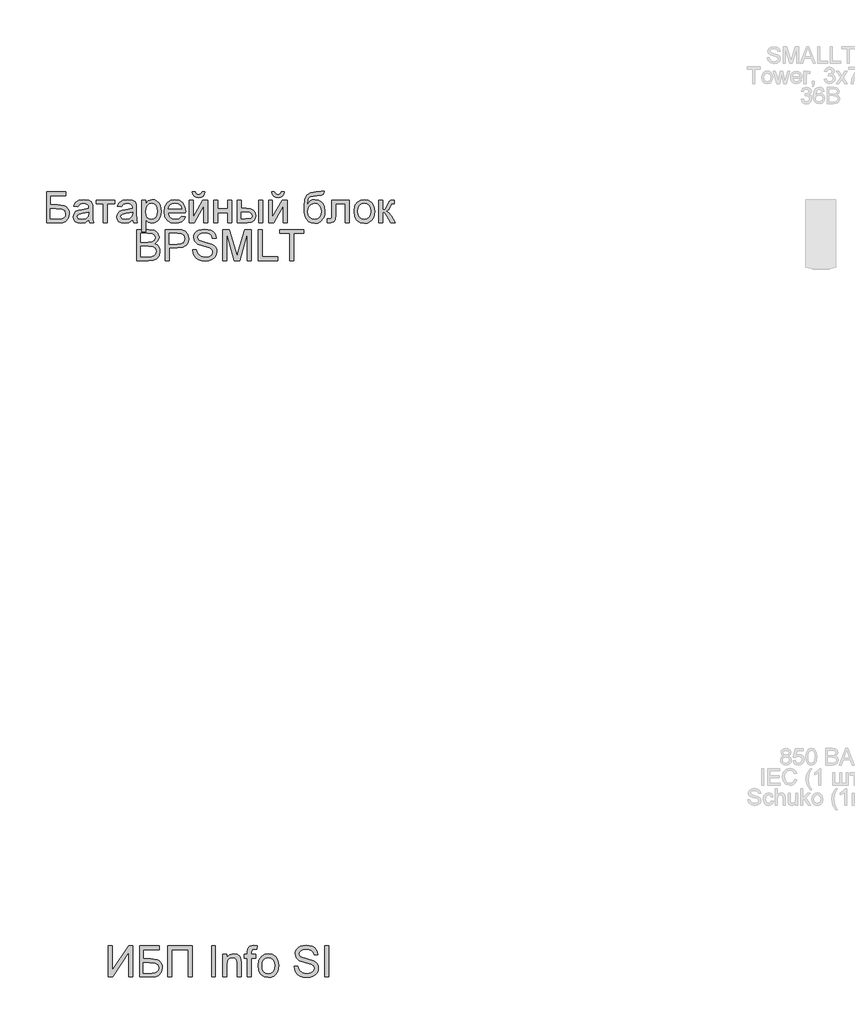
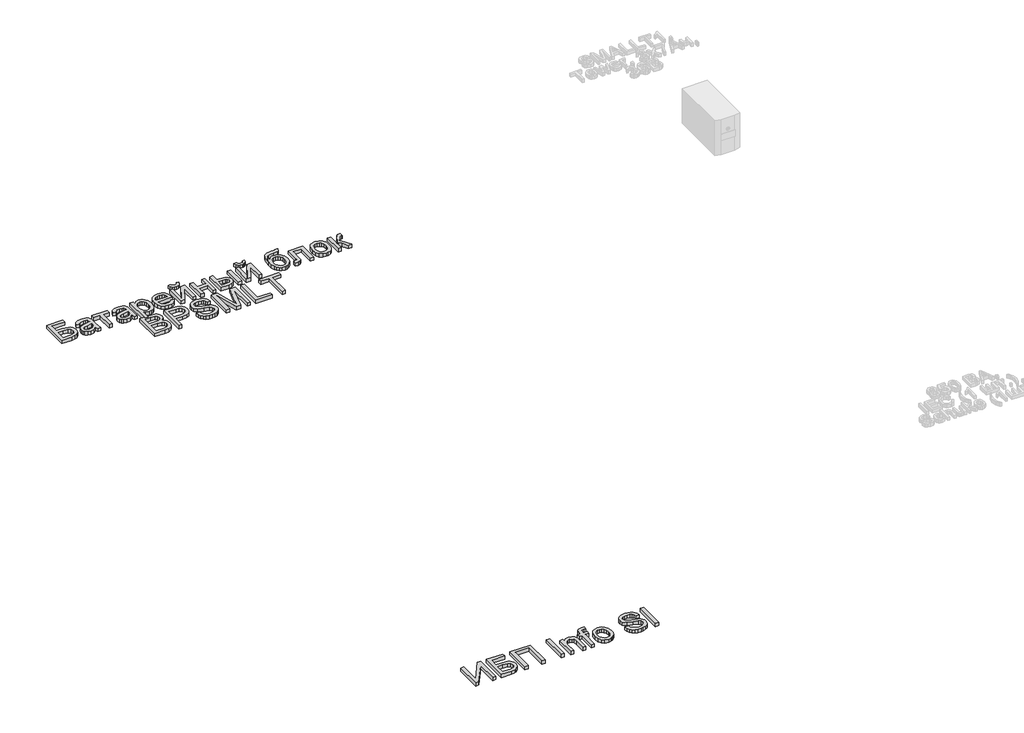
# One storey, part 6 of 74: 2 proxies.
"""IFC4 building model written with IfcOpenShell, lengths in millimetres."""

import ifcopenshell
import ifcopenshell.guid

model = None  # the IFC model being written
_history = None  # IfcOwnerHistory: only IFC2X3 demands one
_inside = {}  # id of a spatial element -> (the spatial element, [elements in it])
_under = {}  # id of a project, library or spatial element -> (it, [spatial elements below it])
_declared = {}  # id of a project -> (the project, [libraries it declares])
_typed = {}  # id of a type object -> (the type object, [elements of that type])
_made_of = {}  # id of a material, layer set ... -> (it, [elements and type objects made of it])


def new_model(schema):
    """Start an empty IFC model of exactly this schema.

    Asked for "IFC4X3", IfcOpenShell would pick the latest addendum, in which some entities
    have other attributes; the version numbers below select the first issue.
    IFC2X3 requires an IfcOwnerHistory on every rooted entity: one is made here for all.
    """
    global model, _history
    if schema == "IFC4X3":
        model = ifcopenshell.file(schema_version=(4, 3, 0, 0))
    else:
        model = ifcopenshell.file(schema=schema)
    _inside.clear()
    _under.clear()
    _declared.clear()
    _typed.clear()
    _made_of.clear()
    _history = None
    if model.schema == "IFC2X3":
        org = make("IfcOrganization", Name="unknown")
        user = make(
            "IfcPersonAndOrganization",
            ThePerson=make("IfcPerson", FamilyName="unknown"),
            TheOrganization=org,
        )
        app = make(
            "IfcApplication",
            ApplicationDeveloper=org,
            Version="unknown",
            ApplicationFullName="unknown",
            ApplicationIdentifier="unknown",
        )
        _history = make(
            "IfcOwnerHistory",
            OwningUser=user,
            OwningApplication=app,
            ChangeAction="ADDED",
            CreationDate=0,
        )
    return model


def make(cls, **values):
    """One entity of the class cls with the attributes given. An attribute that is None is left unset."""
    return model.create_entity(
        cls, **{name: value for name, value in values.items() if value is not None}
    )


def rooted(cls, **values):
    """An entity with a GlobalId (a new one), such as an element, a storey or a relation."""
    return make(cls, GlobalId=ifcopenshell.guid.new(), OwnerHistory=_history, **values)


def si_unit(unit_type, name, prefix=None):
    """IfcSIUnit, for example si_unit("LENGTHUNIT", "METRE", prefix="MILLI")."""
    return make("IfcSIUnit", UnitType=unit_type, Prefix=prefix, Name=name)


def assignment(units):
    """IfcUnitAssignment: the units of a project."""
    return None if units is None else make("IfcUnitAssignment", Units=units)


def point(xyz):
    """IfcCartesianPoint."""
    return None if xyz is None else make("IfcCartesianPoint", Coordinates=xyz)


def direction(xyz):
    """IfcDirection."""
    return None if xyz is None else make("IfcDirection", DirectionRatios=xyz)


def frame(location, z_axis=None, x_axis=None):
    """IfcAxis2Placement3D, a coordinate frame: its origin and axes. An axis left out is left unset."""
    return make(
        "IfcAxis2Placement3D",
        Location=point(location),
        Axis=direction(z_axis),
        RefDirection=direction(x_axis),
    )


def origin():
    """The frame at (0, 0, 0) with its axes left unset."""
    return frame((0.0, 0.0, 0.0))


def origin_with_axes():
    """The frame at (0, 0, 0) with the z axis (0, 0, 1) and the x axis (1, 0, 0) written out."""
    return frame((0.0, 0.0, 0.0), z_axis=(0.0, 0.0, 1.0), x_axis=(1.0, 0.0, 0.0))


def place(relative_to, where):
    """IfcLocalPlacement: puts the frame where relative to a parent placement (None: the world)."""
    return make(
        "IfcLocalPlacement", PlacementRelTo=relative_to, RelativePlacement=where
    )


def context(
    kind, dimensions, precision=None, world=None, true_north=None, identifier=None
):
    """IfcGeometricRepresentationContext, for example the 3D "Model" context."""
    return make(
        "IfcGeometricRepresentationContext",
        ContextIdentifier=identifier,
        ContextType=kind,
        CoordinateSpaceDimension=dimensions,
        Precision=precision,
        WorldCoordinateSystem=world,
        TrueNorth=true_north,
    )


def project(units=None, contexts=None):
    """IfcProject with its units and contexts."""
    return rooted(
        "IfcProject",
        Name="project",
        RepresentationContexts=contexts,
        UnitsInContext=assignment(units),
    )


def spatial(cls, under=None, at=None, **own):
    """A site, building, storey or space (cls), placed at a placement, below another one or the project."""
    s = rooted(cls, ObjectPlacement=at, **own)
    if under is not None:
        _under.setdefault(under.id(), (under, []))[1].append(s)
    return s


def polyline(points):
    """IfcPolyline through the points."""
    return make("IfcPolyline", Points=[point(p) for p in points])


def outline(outer, holes=None, kind="AREA"):
    """IfcArbitraryClosedProfileDef: a profile drawn as a closed curve; with holes, ...WithVoids."""
    if holes is None:
        return make("IfcArbitraryClosedProfileDef", ProfileType=kind, OuterCurve=outer)
    return make(
        "IfcArbitraryProfileDefWithVoids",
        ProfileType=kind,
        OuterCurve=outer,
        InnerCurves=holes,
    )


def extrude(swept, where, along, depth):
    """IfcExtrudedAreaSolid: the profile swept, set in the frame where, extruded along a direction by depth."""
    return make(
        "IfcExtrudedAreaSolid",
        SweptArea=swept,
        Position=where,
        ExtrudedDirection=direction(along),
        Depth=depth,
    )


def shape(context_of_items, identifier, shape_type, items):
    """IfcShapeRepresentation: the items that make up one representation, for example the "Body"."""
    return make(
        "IfcShapeRepresentation",
        ContextOfItems=context_of_items,
        RepresentationIdentifier=identifier,
        RepresentationType=shape_type,
        Items=items,
    )


def made_of(thing, what):
    """Note that an element or type object is made of a material, layer set ...; save() writes the relation."""
    if what is not None:
        _made_of.setdefault(what.id(), (what, []))[1].append(thing)
    return thing


def element(
    cls,
    number,
    at=None,
    inside=None,
    cuts=None,
    type_object=None,
    material=None,
    context=None,
    identifier="Body",
    shape_type=None,
    held_by="IfcProductDefinitionShape",
    body=None,
    shapes=None,
    **own,
):
    """One element of the class cls, such as IfcWall. Its Tag is "e" and its number.

    at: its placement. inside: the storey or other place that contains it. cuts: it is an
    opening in that element (IfcRelVoidsElement). A single representation is given by context,
    identifier, shape_type and body (its items); several are given by shapes. held_by: the class
    of the entity that holds the representations. save() writes the other relations.
    """
    e = rooted(cls, Tag="e%d" % number, ObjectPlacement=at, **own)
    if body is not None:
        shapes = [shape(context, identifier, shape_type, body)]
    if shapes is not None:
        e.Representation = make(held_by, Representations=shapes)
    if inside is not None:
        _inside.setdefault(inside.id(), (inside, []))[1].append(e)
    if cuts is not None:
        rooted(
            "IfcRelVoidsElement", RelatingBuildingElement=cuts, RelatedOpeningElement=e
        )
    if type_object is not None:
        _typed.setdefault(type_object.id(), (type_object, []))[1].append(e)
    return made_of(e, material)


def aggregate(whole, parts):
    """IfcRelAggregates: a whole, such as a stair, and the parts it consists of."""
    return rooted("IfcRelAggregates", RelatingObject=whole, RelatedObjects=parts)


def save(model, path):
    """Write the relations noted so far, then the file.

    IfcRelAggregates (storeys below a building ...), IfcRelContainedInSpatialStructure (elements
    in a storey), IfcRelDefinesByType, IfcRelAssociatesMaterial and IfcRelDeclares: one each for
    every whole, place, type object, material and project.
    """
    for whole, parts in _under.values():
        aggregate(whole, parts)
    for where, things in _inside.values():
        rooted(
            "IfcRelContainedInSpatialStructure",
            RelatedElements=things,
            RelatingStructure=where,
        )
    for kind, things in _typed.values():
        rooted("IfcRelDefinesByType", RelatedObjects=things, RelatingType=kind)
    for what, things in _made_of.values():
        rooted("IfcRelAssociatesMaterial", RelatedObjects=things, RelatingMaterial=what)
    for by, libraries in _declared.values():
        rooted("IfcRelDeclares", RelatingContext=by, RelatedDefinitions=libraries)
    model.write(path)


model = new_model("IFC4")

# Units and contexts
model_context = context("Model", 3, world=origin())
ifc_project = project(units=[si_unit("LENGTHUNIT", "METRE", prefix="MILLI")], contexts=[model_context])

# Site, building, storey
site = spatial("IfcSite", under=ifc_project)
building = spatial("IfcBuilding", under=site)
storey = spatial("IfcBuildingStorey", under=building, Name="Этаж 01", Elevation=0.0)

# Proxies
placement = place(None, origin())
element("IfcBuildingElementProxy", 1, Name="150 мм Arial", ObjectType="150 мм Arial", at=placement, inside=storey, context=model_context, shape_type="SweptSolid", body=[
    extrude(outline(polyline([(-2399.3960544, -28290.385521), (-2305.2182636, -28290.385521), (-2305.2182636, -28309.2210791), (-2380.5604963, -28309.2210791), (-2380.5604963, -28353.9555297), (-2345.2806129, -28353.9555297), (-2314.1945843, -28357.7815025), (-2303.7927209, -28363.3089295), (-2295.69012, -28372.2392649), (-2290.4753927, -28383.7355772), (-2288.7371503, -28396.960935), (-2293.6851631, -28418.4268494), (-2308.4556252, -28434.7424159), (-2321.7269682, -28439.4880936), (-2341.8960986, -28441.0699862), (-2399.3960544, -28441.0699862), (-2399.3960544, -28290.385521)]), holes=[polyline([(-2380.5604963, -28422.234428), (-2340.2038414, -28422.234428), (-2325.939217, -28420.6801266), (-2315.7396887, -28416.0172223), (-2309.6144535, -28408.2457152), (-2307.5727084, -28397.3656052), (-2312.2448098, -28382.6135372), (-2325.2494383, -28374.7408625), (-2353.6315342, -28372.7910879), (-2380.5604963, -28372.7910879), (-2380.5604963, -28422.234428)])]), origin_with_axes(), (0.0, 0.0, 1.0), 20.0),
    extrude(outline(polyline([(-2194.5593595, -28426.9433176), (-2212.8247006, -28439.7088228), (-2233.003028, -28443.424431), (-2248.7437789, -28441.1895478), (-2260.3550543, -28434.4848985), (-2267.5149577, -28424.3037643), (-2269.9015921, -28411.6394266), (-2266.2963486, -28396.7402058), (-2256.8233872, -28385.9244751), (-2243.6348176, -28379.7440576), (-2227.3376453, -28376.9113662), (-2194.6697241, -28370.4366431), (-2194.5593595, -28366.2427884), (-2195.8561435, -28357.8366848), (-2199.7464956, -28352.336849), (-2208.4469048, -28348.2533588), (-2220.5686166, -28346.8921954), (-2239.6249039, -28350.5158331), (-2248.7115892, -28363.3733088), (-2267.5471473, -28361.018864), (-2259.3985611, -28342.6247643), (-2242.9910242, -28331.8458218), (-2218.1405954, -28328.0566373), (-2195.3135176, -28331.4043634), (-2182.4192537, -28339.810467), (-2176.6435063, -28352.5943664), (-2175.7238013, -28369.0754797), (-2175.7238013, -28392.5095628), (-2174.7673082, -28425.2326663), (-2171.0149118, -28441.0699862), (-2189.85047, -28441.0699862), (-2194.5593595, -28426.9433176)]), holes=[polyline([(-2194.5593595, -28389.2722013), (-2224.9464123, -28395.0479486), (-2241.1516142, -28398.1013692), (-2248.49086, -28403.0677761), (-2251.066034, -28410.3150514), (-2245.4558335, -28420.5053827), (-2228.9931142, -28424.5888728), (-2209.9368269, -28420.0823184), (-2197.6495683, -28409.1746172), (-2194.6697241, -28394.6064902), (-2194.5593595, -28389.2722013)])]), origin_with_axes(), (0.0, 0.0, 1.0), 20.0),
    extrude(outline(polyline([(-2159.242688, -28330.411082), (-2069.7737867, -28330.411082), (-2069.7737867, -28349.2466402), (-2105.0904583, -28349.2466402), (-2105.0904583, -28441.0699862), (-2123.9260164, -28441.0699862), (-2123.9260164, -28349.2466402), (-2159.242688, -28349.2466402), (-2159.242688, -28330.411082)])), origin_with_axes(), (0.0, 0.0, 1.0), 20.0),
    extrude(outline(polyline([(-1982.6593303, -28426.9433176), (-2000.9246713, -28439.7088228), (-2021.1029988, -28443.424431), (-2036.8437496, -28441.1895478), (-2048.4550251, -28434.4848985), (-2055.6149284, -28424.3037643), (-2058.0015629, -28411.6394266), (-2054.3963193, -28396.7402058), (-2044.923358, -28385.9244751), (-2031.7347884, -28379.7440576), (-2015.437616, -28376.9113662), (-1982.7696949, -28370.4366431), (-1982.6593303, -28366.2427884), (-1983.9561143, -28357.8366848), (-1987.8464664, -28352.336849), (-1996.5468756, -28348.2533588), (-2008.6685873, -28346.8921954), (-2027.7248747, -28350.5158331), (-2036.81156, -28363.3733088), (-2055.6471181, -28361.018864), (-2047.4985319, -28342.6247643), (-2031.0909949, -28331.8458218), (-2006.2405662, -28328.0566373), (-1983.4134884, -28331.4043634), (-1970.5192244, -28339.810467), (-1964.7434771, -28352.5943664), (-1963.8237721, -28369.0754797), (-1963.8237721, -28392.5095628), (-1962.8672789, -28425.2326663), (-1959.1148826, -28441.0699862), (-1977.9504407, -28441.0699862), (-1982.6593303, -28426.9433176)]), holes=[polyline([(-1982.6593303, -28389.2722013), (-2013.0463831, -28395.0479486), (-2029.251585, -28398.1013692), (-2036.5908308, -28403.0677761), (-2039.1660047, -28410.3150514), (-2033.5558043, -28420.5053827), (-2017.093085, -28424.5888728), (-1998.0367977, -28420.0823184), (-1985.749539, -28409.1746172), (-1982.7696949, -28394.6064902), (-1982.6593303, -28389.2722013)])]), origin_with_axes(), (0.0, 0.0, 1.0), 20.0),
    extrude(outline(polyline([(-1937.9248797, -28483.449992), (-1937.9248797, -28330.411082), (-1919.0893215, -28330.411082), (-1919.0893215, -28348.8787582), (-1906.0662989, -28333.2621675), (-1888.4815395, -28328.0566373), (-1875.7436254, -28329.8776532), (-1864.605998, -28335.3407008), (-1855.5377068, -28344.1146864), (-1849.0078014, -28355.8685161), (-1843.7470889, -28384.8944055), (-1845.2324124, -28401.0030384), (-1849.6883831, -28415.410217), (-1856.9724466, -28427.384776), (-1866.9420487, -28436.1955498), (-1878.5533242, -28441.6172107), (-1890.7624079, -28443.424431), (-1907.1515508, -28438.5867827), (-1919.0893215, -28426.3547064), (-1919.0893215, -28483.449992), (-1937.9248797, -28483.449992)]), holes=[polyline([(-1919.0893215, -28386.6234509), (-1917.052175, -28403.5092345), (-1910.9407353, -28415.3182465), (-1901.9230279, -28422.2712162), (-1891.1670781, -28424.5888728), (-1880.2363843, -28422.1884428), (-1870.9887506, -28414.9871527), (-1864.6841729, -28402.7458793), (-1862.582647, -28385.2254993), (-1864.6335892, -28368.4316862), (-1870.7864155, -28356.4571273), (-1879.7903274, -28349.2834284), (-1890.3945259, -28346.8921954), (-1901.0401111, -28349.4351797), (-1910.3889123, -28357.0641326), (-1916.9142192, -28369.5399308), (-1919.0893215, -28386.6234509)])]), origin_with_axes(), (0.0, 0.0, 1.0), 20.0),
    extrude(outline(polyline([(-1745.0811378, -28408.1077594), (-1726.6134616, -28410.4622042), (-1733.2675272, -28424.3773407), (-1743.8855213, -28434.7792041), (-1758.2283206, -28441.2631242), (-1776.0568018, -28443.424431), (-1798.1573126, -28439.6950272), (-1815.1626579, -28428.5068161), (-1826.0059797, -28410.5863644), (-1829.6204203, -28386.6602391), (-1825.9691915, -28361.929372), (-1815.0155051, -28343.4341047), (-1798.2400861, -28331.9010041), (-1777.1236596, -28328.0566373), (-1756.6648221, -28331.8918071), (-1740.3170659, -28343.3973165), (-1729.5979043, -28361.8557956), (-1726.0248504, -28386.5498745), (-1726.135215, -28391.626646), (-1810.7848621, -28391.626646), (-1807.5245079, -28405.7257235), (-1799.9507374, -28416.0907987), (-1789.0200436, -28422.4643543), (-1775.6889198, -28424.5888728), (-1757.2212436, -28420.6525355), (-1745.0811378, -28408.1077594)]), holes=[polyline([(-1810.7848621, -28372.7910879), (-1744.8604086, -28372.7910879), (-1747.4079914, -28362.8398799), (-1752.4019895, -28355.7213633), (-1763.383267, -28349.0994874), (-1777.197236, -28346.8921954), (-1789.8937633, -28348.6534305), (-1800.3921958, -28353.9371356), (-1807.6900548, -28362.1730938), (-1810.7848621, -28372.7910879)])]), origin_with_axes(), (0.0, 0.0, 1.0), 20.0),
    extrude(outline(polyline([(-1645.9737283, -28290.385521), (-1631.8470597, -28290.385521), (-1634.8866847, -28302.4474519), (-1640.9889273, -28311.3364006), (-1649.877876, -28316.8132438), (-1661.2776193, -28318.6388582), (-1673.6476514, -28316.8270394), (-1683.2401744, -28311.3915829), (-1689.797671, -28302.5164298), (-1693.0626237, -28290.385521), (-1678.9359551, -28290.385521), (-1673.6384543, -28300.9989165), (-1662.9698765, -28304.5121896), (-1651.271229, -28301.1092811), (-1645.9737283, -28290.385521)])), origin_with_axes(), (0.0, 0.0, 1.0), 20.0),
    extrude(outline(polyline([(-1707.1892923, -28330.411082), (-1688.3537341, -28330.411082), (-1688.3537341, -28414.8032117), (-1642.0741791, -28330.411082), (-1617.7203911, -28330.411082), (-1617.7203911, -28441.0699862), (-1636.5559492, -28441.0699862), (-1636.5559492, -28357.1928913), (-1682.5411986, -28441.0699862), (-1707.1892923, -28441.0699862), (-1707.1892923, -28330.411082)])), origin_with_axes(), (0.0, 0.0, 1.0), 20.0),
    extrude(outline(polyline([(-1589.4670538, -28330.411082), (-1570.6314957, -28330.411082), (-1570.6314957, -28372.7910879), (-1521.1881555, -28372.7910879), (-1521.1881555, -28330.411082), (-1502.3525974, -28330.411082), (-1502.3525974, -28441.0699862), (-1521.1881555, -28441.0699862), (-1521.1881555, -28391.626646), (-1570.6314957, -28391.626646), (-1570.6314957, -28441.0699862), (-1589.4670538, -28441.0699862), (-1589.4670538, -28330.411082)])), origin_with_axes(), (0.0, 0.0, 1.0), 20.0),
    extrude(outline(polyline([(-1474.0992601, -28330.411082), (-1455.263702, -28330.411082), (-1455.263702, -28370.4366431), (-1431.9767717, -28370.4366431), (-1411.849028, -28372.7956864), (-1396.9360117, -28379.8728163), (-1387.7067721, -28391.0978157), (-1384.6303589, -28405.9004675), (-1387.2101314, -28419.3787441), (-1394.9494489, -28430.7508962), (-1408.3541491, -28438.4902137), (-1427.9300697, -28441.0699862), (-1474.0992601, -28441.0699862), (-1474.0992601, -28330.411082)]), holes=[polyline([(-1455.263702, -28422.234428), (-1435.913109, -28422.234428), (-1410.9339216, -28418.2796966), (-1405.3329182, -28413.2167206), (-1403.4659171, -28405.9372557), (-1409.0025411, -28394.3489728), (-1417.8822928, -28390.5413942), (-1433.4482997, -28389.2722013), (-1455.263702, -28389.2722013), (-1455.263702, -28422.234428)])]), origin_with_axes(), (0.0, 0.0, 1.0), 20.0),
    extrude(outline(polyline([(-1370.5036903, -28330.411082), (-1351.6681321, -28330.411082), (-1351.6681321, -28441.0699862), (-1370.5036903, -28441.0699862), (-1370.5036903, -28330.411082)])), origin_with_axes(), (0.0, 0.0, 1.0), 20.0),
    extrude(outline(polyline([(-1262.1992309, -28290.385521), (-1248.0725623, -28290.385521), (-1251.1121873, -28302.4474519), (-1257.2144299, -28311.3364006), (-1266.1033786, -28316.8132438), (-1277.5031219, -28318.6388582), (-1289.873154, -28316.8270394), (-1299.465677, -28311.3915829), (-1306.0231736, -28302.5164298), (-1309.2881263, -28290.385521), (-1295.1614577, -28290.385521), (-1289.863957, -28300.9989165), (-1279.1953791, -28304.5121896), (-1267.4967316, -28301.1092811), (-1262.1992309, -28290.385521)])), origin_with_axes(), (0.0, 0.0, 1.0), 20.0),
    extrude(outline(polyline([(-1323.4147949, -28330.411082), (-1304.5792368, -28330.411082), (-1304.5792368, -28414.8032117), (-1258.2996818, -28330.411082), (-1233.9458937, -28330.411082), (-1233.9458937, -28441.0699862), (-1252.7814518, -28441.0699862), (-1252.7814518, -28357.1928913), (-1298.7667012, -28441.0699862), (-1323.4147949, -28441.0699862), (-1323.4147949, -28330.411082)])), origin_with_axes(), (0.0, 0.0, 1.0), 20.0),
    extrude(outline(polyline([(-1069.1347598, -28288.0310762), (-1052.6536465, -28288.0310762), (-1057.5096888, -28302.7279619), (-1067.1114089, -28308.0438567), (-1090.17761, -28309.2210791), (-1121.2452445, -28313.5620867), (-1128.3729581, -28319.2090753), (-1133.1646211, -28327.4680261), (-1137.192929, -28352.0793316), (-1120.8773625, -28334.0531138), (-1110.9583442, -28329.5557564), (-1099.8529064, -28328.0566373), (-1080.2539932, -28331.8688145), (-1064.3522939, -28343.305346), (-1053.8124747, -28361.2441918), (-1050.2992017, -28384.5633117), (-1052.0420426, -28402.5435443), (-1057.2705655, -28416.9737155), (-1073.8068612, -28436.5266436), (-1085.1008384, -28441.6999841), (-1099.8529064, -28443.424431), (-1116.8536531, -28441.2033434), (-1129.5961658, -28434.5400808), (-1138.9725581, -28424.4141289), (-1145.874944, -28411.8049735), (-1150.1239811, -28392.817664), (-1151.5403268, -28363.5572498), (-1147.9672729, -28327.4174423), (-1137.2481113, -28305.3767123), (-1119.1161274, -28294.1333188), (-1093.3046069, -28290.385521), (-1072.3353332, -28289.9624567), (-1069.1347598, -28288.0310762)]), holes=[polyline([(-1069.1347598, -28383.9747005), (-1071.1765049, -28369.1536547), (-1077.3017401, -28357.2848618), (-1087.1425835, -28349.490362), (-1100.331153, -28346.8921954), (-1114.0807426, -28349.6375148), (-1124.2802709, -28357.873473), (-1130.5986442, -28370.698759), (-1132.7047686, -28387.2120621), (-1130.377915, -28403.2195274), (-1123.3973541, -28414.9687586), (-1113.0046878, -28422.1838443), (-1100.4415176, -28424.5888728), (-1087.8139682, -28421.8067652), (-1077.8167749, -28413.4604425), (-1071.3052636, -28400.5247918), (-1069.1347598, -28383.9747005)])]), origin_with_axes(), (0.0, 0.0, 1.0), 20.0),
    extrude(outline(polyline([(-1017.3369749, -28330.411082), (-932.5769632, -28330.411082), (-932.5769632, -28440.9596216), (-951.4125214, -28440.9596216), (-951.4125214, -28349.2466402), (-998.5014168, -28349.2466402), (-998.5014168, -28402.0377065), (-999.7706097, -28426.3914946), (-1006.7419735, -28436.6737964), (-1023.2230869, -28441.0699862), (-1038.5269778, -28440.113493), (-1038.5269778, -28422.234428), (-1030.1024802, -28422.234428), (-1021.586012, -28421.0755998), (-1018.1831035, -28417.3967798), (-1017.3369749, -28400.9708487), (-1017.3369749, -28330.411082)])), origin_with_axes(), (0.0, 0.0, 1.0), 20.0),
    extrude(outline(polyline([(-909.0325155, -28385.7405341), (-904.9582225, -28359.0598924), (-892.7353432, -28340.3071077), (-877.6337873, -28331.1192549), (-859.5523872, -28328.0566373), (-839.7649344, -28331.786041), (-823.9598042, -28342.9742522), (-813.5993275, -28360.738354), (-810.1458352, -28384.1954297), (-811.6725455, -28403.2241259), (-816.2526764, -28417.7094795), (-823.7528705, -28428.5573998), (-834.0397708, -28436.6737964), (-846.2580516, -28441.7367723), (-859.5523872, -28443.424431), (-879.5789633, -28439.7088228), (-895.3656994, -28428.5619984), (-905.6158115, -28410.425416), (-909.0325155, -28385.7405341)]), holes=[polyline([(-890.1969574, -28385.7037459), (-888.0172566, -28402.7504779), (-881.4781541, -28414.8951822), (-871.6373107, -28422.1654502), (-859.5523872, -28424.5888728), (-847.522646, -28422.1516546), (-837.7001967, -28414.8399999), (-831.1610942, -28402.5343472), (-828.9813934, -28385.1151347), (-831.1748898, -28368.5650435), (-837.755379, -28356.585886), (-847.5916238, -28349.3156181), (-859.5523872, -28346.8921954), (-871.6373107, -28349.306421), (-881.4781541, -28356.5490978), (-888.0172566, -28368.666211), (-890.1969574, -28385.7037459)])]), origin_with_axes(), (0.0, 0.0, 1.0), 20.0),
    extrude(outline(polyline([(-788.9558323, -28330.411082), (-770.1202742, -28330.411082), (-770.1202742, -28377.4999774), (-757.5019217, -28374.1154631), (-747.1644377, -28354.3969881), (-738.5743931, -28337.3824459), (-730.996024, -28331.8458218), (-717.2188433, -28330.411082), (-713.6135997, -28330.411082), (-713.6135997, -28349.3570048), (-718.6903712, -28349.2466402), (-727.8874211, -28351.233203), (-734.3621442, -28363.6308262), (-741.9589074, -28377.0401249), (-752.6090912, -28383.6068185), (-740.7265028, -28390.9368673), (-729.0646435, -28406.3787141), (-708.9047102, -28441.0699862), (-730.3154423, -28441.0699862), (-750.0707054, -28407.114478), (-760.0035193, -28392.7486861), (-770.1202742, -28389.2722013), (-770.1202742, -28441.0699862), (-788.9558323, -28441.0699862), (-788.9558323, -28330.411082)])), origin_with_axes(), (0.0, 0.0, 1.0), 20.0),
    extrude(outline(polyline([(-1962.6465497, -28624.032213), (-1962.6465497, -28473.3477477), (-1905.1465939, -28473.3477477), (-1876.9852272, -28477.7807258), (-1867.5214628, -28483.4047218), (-1860.356961, -28491.4107537), (-1854.3420904, -28510.6877703), (-1859.4004678, -28528.2909237), (-1874.6859647, -28541.626646), (-1864.0127883, -28547.2000583), (-1856.126318, -28555.6797383), (-1851.2564801, -28566.504666), (-1849.6332008, -28579.1138214), (-1854.0661789, -28599.3657252), (-1865.0474564, -28613.7866994), (-1881.4365993, -28621.4386449), (-1905.5880523, -28624.032213), (-1962.6465497, -28624.032213)]), holes=[polyline([(-1943.8109916, -28534.5633117), (-1909.414025, -28534.5633117), (-1889.3276681, -28532.944631), (-1877.2427446, -28525.9732671), (-1873.1776485, -28513.7044026), (-1876.9668331, -28501.417144), (-1887.8193519, -28494.1514746), (-1912.0259872, -28492.1833059), (-1943.8109916, -28492.1833059), (-1943.8109916, -28534.5633117)]), polyline([(-1943.8109916, -28605.1966548), (-1905.1833821, -28605.1966548), (-1891.2038663, -28604.4608908), (-1879.3764601, -28600.3590066), (-1871.5405736, -28591.9896912), (-1868.468759, -28579.2977624), (-1872.0740025, -28564.6560589), (-1883.7542559, -28555.9188616), (-1907.0227921, -28553.3988699), (-1943.8109916, -28553.3988699), (-1943.8109916, -28605.1966548)])]), origin_with_axes(), (0.0, 0.0, 1.0), 20.0),
    extrude(outline(polyline([(-1823.7343084, -28624.032213), (-1823.7343084, -28473.3477477), (-1767.8898215, -28473.3477477), (-1745.3754434, -28474.7824875), (-1727.0733141, -28481.8274277), (-1715.2091198, -28496.3955547), (-1710.7209594, -28516.9417642), (-1713.7513874, -28534.7012675), (-1722.8426712, -28549.4993207), (-1739.8434179, -28559.4873169), (-1766.6022345, -28562.816649), (-1804.8987502, -28562.816649), (-1804.8987502, -28624.032213), (-1823.7343084, -28624.032213)]), holes=[polyline([(-1804.8987502, -28543.9810908), (-1765.4985885, -28543.9810908), (-1748.7967459, -28542.2520454), (-1737.7602861, -28537.0649093), (-1731.6074597, -28528.7415792), (-1729.5565176, -28517.6039518), (-1734.3941658, -28502.0057552), (-1747.1044888, -28493.4708929), (-1765.9400469, -28492.1833059), (-1804.8987502, -28492.1833059), (-1804.8987502, -28543.9810908)])]), origin_with_axes(), (0.0, 0.0, 1.0), 20.0),
    extrude(outline(polyline([(-1691.8854013, -28572.234428), (-1673.0498431, -28572.234428), (-1666.9797902, -28591.0883803), (-1652.1541458, -28603.0077569), (-1629.5661913, -28607.5510996), (-1609.8845046, -28604.1114029), (-1597.1741816, -28594.6568356), (-1592.998721, -28582.0200891), (-1596.1257179, -28570.2662594), (-1608.9280114, -28561.713003), (-1636.3536141, -28554.52091), (-1665.8761442, -28545.2318896), (-1681.8974051, -28531.2155856), (-1687.1765117, -28512.490392), (-1685.5440354, -28501.4585307), (-1680.6466063, -28491.1716304), (-1672.6129833, -28482.4528271), (-1661.5719249, -28476.1252568), (-1633.6496814, -28470.993303), (-1603.8512398, -28476.3643801), (-1592.4285039, -28482.9954531), (-1583.9856121, -28492.1465177), (-1578.6421261, -28503.2473569), (-1576.5176076, -28515.7277536), (-1595.3531657, -28515.7277536), (-1598.8112565, -28504.4889586), (-1606.0217436, -28496.3771606), (-1617.2881297, -28491.465936), (-1632.9139175, -28489.8288611), (-1648.9075872, -28491.4475419), (-1659.8796677, -28496.3035842), (-1666.2256321, -28503.449692), (-1668.3409536, -28511.938569), (-1666.8418345, -28519.1766473), (-1662.3444771, -28524.9983799), (-1631.5895423, -28535.5198049), (-1598.2594335, -28544.9743722), (-1587.5218778, -28551.8077803), (-1580.0308806, -28560.241475), (-1575.6300923, -28570.1834859), (-1574.1631628, -28581.5418425), (-1575.8508215, -28593.153118), (-1580.9137974, -28604.0746147), (-1589.1451571, -28613.4739997), (-1600.3379668, -28620.5189399), (-1613.7978493, -28624.9197283), (-1628.8304273, -28626.3866577), (-1647.2843079, -28624.8047652), (-1662.4732358, -28620.0590874), (-1674.5719549, -28612.1312304), (-1683.7552092, -28601.0028001), (-1689.6505182, -28587.4463485), (-1691.8854013, -28572.234428)])), origin_with_axes(), (0.0, 0.0, 1.0), 20.0),
    extrude(outline(polyline([(-1545.9098256, -28624.032213), (-1545.9098256, -28473.3477477), (-1513.4994218, -28473.3477477), (-1482.6709106, -28579.5552797), (-1476.4537049, -28601.7385641), (-1469.7214644, -28577.7158698), (-1439.407988, -28473.3477477), (-1406.9975842, -28473.3477477), (-1406.9975842, -28624.032213), (-1425.8331424, -28624.032213), (-1425.8331424, -28492.1833059), (-1463.6881997, -28624.032213), (-1489.2192101, -28624.032213), (-1527.0742674, -28492.1833059), (-1527.0742674, -28624.032213), (-1545.9098256, -28624.032213)])), origin_with_axes(), (0.0, 0.0, 1.0), 20.0),
    extrude(outline(polyline([(-1374.0353575, -28624.032213), (-1374.0353575, -28473.3477477), (-1355.1997993, -28473.3477477), (-1355.1997993, -28605.1966548), (-1279.8575667, -28605.1966548), (-1279.8575667, -28624.032213), (-1374.0353575, -28624.032213)])), origin_with_axes(), (0.0, 0.0, 1.0), 20.0),
    extrude(outline(polyline([(-1220.9964475, -28624.032213), (-1220.9964475, -28492.1833059), (-1270.4397876, -28492.1833059), (-1270.4397876, -28473.3477477), (-1152.7175492, -28473.3477477), (-1152.7175492, -28492.1833059), (-1202.1608893, -28492.1833059), (-1202.1608893, -28624.032213), (-1220.9964475, -28624.032213)])), origin_with_axes(), (0.0, 0.0, 1.0), 20.0),
])
element("IfcBuildingElementProxy", 2, Name="150 мм Arial", ObjectType="150 мм Arial", at=placement, inside=storey, context=model_context, shape_type="SweptSolid", body=[
    extrude(outline(polyline([(-2099.2043463, -31944.5427726), (-2080.3687882, -31944.5427726), (-2080.3687882, -32063.8836919), (-2001.4948884, -31944.5427726), (-1981.4821079, -31944.5427726), (-1981.4821079, -32095.2272379), (-2000.317666, -32095.2272379), (-2000.317666, -31976.2174124), (-2079.0076248, -32095.2272379), (-2099.2043463, -32095.2272379), (-2099.2043463, -31944.5427726)])), origin_with_axes(), (0.0, 0.0, 1.0), 20.0),
    extrude(outline(polyline([(-1948.5198811, -31944.5427726), (-1854.3420904, -31944.5427726), (-1854.3420904, -31963.3783308), (-1929.684323, -31963.3783308), (-1929.684323, -32008.1127814), (-1894.4044396, -32008.1127814), (-1863.318411, -32011.9387542), (-1852.9165476, -32017.4661811), (-1844.8139467, -32026.3965166), (-1839.5992194, -32037.8928289), (-1837.860977, -32051.1181867), (-1842.8089898, -32072.5841011), (-1857.5794519, -32088.8996676), (-1870.8507949, -32093.6453453), (-1891.0199253, -32095.2272379), (-1948.5198811, -32095.2272379), (-1948.5198811, -31944.5427726)]), holes=[polyline([(-1929.684323, -32076.3916797), (-1889.3276681, -32076.3916797), (-1875.0630437, -32074.8373783), (-1864.8635154, -32070.174474), (-1858.7382802, -32062.4029669), (-1856.6965351, -32051.5228568), (-1861.3686365, -32036.7707888), (-1874.373265, -32028.8981141), (-1902.7553609, -32026.9483396), (-1929.684323, -32026.9483396), (-1929.684323, -32076.3916797)])]), origin_with_axes(), (0.0, 0.0, 1.0), 20.0),
    extrude(outline(polyline([(-1811.9620845, -31944.5427726), (-1694.2398461, -31944.5427726), (-1694.2398461, -32095.2272379), (-1713.0754042, -32095.2272379), (-1713.0754042, -31963.3783308), (-1793.1265264, -31963.3783308), (-1793.1265264, -32095.2272379), (-1811.9620845, -32095.2272379), (-1811.9620845, -31944.5427726)])), origin_with_axes(), (0.0, 0.0, 1.0), 20.0),
    extrude(outline(polyline([(-1600.0620553, -32095.2272379), (-1600.0620553, -31944.5427726), (-1581.2264971, -31944.5427726), (-1581.2264971, -32095.2272379), (-1600.0620553, -32095.2272379)])), origin_with_axes(), (0.0, 0.0, 1.0), 20.0),
    extrude(outline(polyline([(-1545.9098256, -32095.2272379), (-1545.9098256, -31984.5683337), (-1527.0742674, -31984.5683337), (-1527.0742674, -32000.0193775), (-1512.6716873, -31986.6652611), (-1493.0083947, -31982.213889), (-1475.2213002, -31985.8007384), (-1463.0811944, -31995.2185175), (-1457.4342058, -32009.0692746), (-1456.4409244, -32027.2794334), (-1456.4409244, -32095.2272379), (-1475.2764825, -32095.2272379), (-1475.2764825, -32029.8178191), (-1477.4469863, -32013.1527647), (-1485.1173259, -32004.341991), (-1498.048378, -32001.0494471), (-1509.0802394, -32002.8980541), (-1518.4842229, -32008.4438752), (-1524.9267563, -32019.1584383), (-1527.0742674, -32036.5132714), (-1527.0742674, -32095.2272379), (-1545.9098256, -32095.2272379)])), origin_with_axes(), (0.0, 0.0, 1.0), 20.0),
    extrude(outline(polyline([(-1425.8331424, -32095.2272379), (-1425.8331424, -32003.4038919), (-1442.3142558, -32003.4038919), (-1442.3142558, -31984.5683337), (-1425.8331424, -31984.5683337), (-1425.8331424, -31973.4215093), (-1423.8465796, -31957.7129481), (-1414.2080713, -31946.4925472), (-1395.2253604, -31942.1883279), (-1378.0452712, -31944.2484671), (-1380.8043862, -31961.9068028), (-1391.656905, -31961.023886), (-1403.5210994, -31964.150883), (-1406.9975842, -31975.8127422), (-1406.9975842, -31984.5683337), (-1385.8075813, -31984.5683337), (-1385.8075813, -32003.4038919), (-1406.9975842, -32003.4038919), (-1406.9975842, -32095.2272379), (-1425.8331424, -32095.2272379)])), origin_with_axes(), (0.0, 0.0, 1.0), 20.0),
    extrude(outline(polyline([(-1374.0353575, -32039.8977858), (-1369.9610644, -32013.2171441), (-1357.7381851, -31994.4643594), (-1342.6366292, -31985.2765066), (-1324.5552291, -31982.213889), (-1304.7677763, -31985.9432927), (-1288.9626461, -31997.1315039), (-1278.6021694, -32014.8956057), (-1275.1486771, -32038.3526814), (-1276.6753874, -32057.3813776), (-1281.2555183, -32071.8667312), (-1288.7557124, -32082.7146515), (-1299.0426127, -32090.831048), (-1311.2608935, -32095.894024), (-1324.5552291, -32097.5816826), (-1344.5818052, -32093.8660745), (-1360.3685413, -32082.71925), (-1370.6186534, -32064.5826677), (-1374.0353575, -32039.8977858)]), holes=[polyline([(-1355.1997993, -32039.8609976), (-1353.0200985, -32056.9077296), (-1346.480996, -32069.0524339), (-1336.6401526, -32076.3227018), (-1324.5552291, -32078.7461245), (-1312.5254879, -32076.3089063), (-1302.7030386, -32068.9972516), (-1296.1639361, -32056.6915989), (-1293.9842353, -32039.2723864), (-1296.1777317, -32022.7222951), (-1302.7582209, -32010.7431377), (-1312.5944657, -32003.4728698), (-1324.5552291, -32001.0494471), (-1336.6401526, -32003.4636727), (-1346.480996, -32010.7063495), (-1353.0200985, -32022.8234627), (-1355.1997993, -32039.8609976)])]), origin_with_axes(), (0.0, 0.0, 1.0), 20.0),
    extrude(outline(polyline([(-1199.8064445, -32043.429453), (-1180.9708864, -32043.429453), (-1174.9008335, -32062.2834052), (-1160.0751891, -32074.2027818), (-1137.4872346, -32078.7461245), (-1117.8055478, -32075.3064278), (-1105.0952249, -32065.8518606), (-1100.9197642, -32053.215114), (-1104.0467612, -32041.4612843), (-1116.8490546, -32032.9080279), (-1144.2746574, -32025.7159349), (-1173.7971875, -32016.4269145), (-1189.8184484, -32002.4106105), (-1195.097555, -31983.6854169), (-1193.4650786, -31972.6535556), (-1188.5676496, -31962.3666553), (-1180.5340265, -31953.647852), (-1169.4929681, -31947.3202817), (-1141.5707247, -31942.1883279), (-1111.7722831, -31947.559405), (-1100.3495471, -31954.190478), (-1091.9066553, -31963.3415426), (-1086.5631694, -31974.4423818), (-1084.4386508, -31986.9227785), (-1103.274209, -31986.9227785), (-1106.7322998, -31975.6839835), (-1113.9427869, -31967.5721855), (-1125.209173, -31962.6609609), (-1140.8349607, -31961.023886), (-1156.8286304, -31962.6425668), (-1167.800711, -31967.4986091), (-1174.1466754, -31974.6447169), (-1176.2619968, -31983.1335939), (-1174.7628777, -31990.3716722), (-1170.2655203, -31996.1934048), (-1139.5105855, -32006.7148298), (-1106.1804768, -32016.1693971), (-1095.442921, -32023.0028052), (-1087.9519239, -32031.4364999), (-1083.5511355, -32041.3785108), (-1082.0842061, -32052.7368674), (-1083.7718647, -32064.3481429), (-1088.8348407, -32075.2696396), (-1097.0662003, -32084.6690246), (-1108.25901, -32091.7139648), (-1121.7188925, -32096.1147532), (-1136.7514706, -32097.5816826), (-1155.2053511, -32095.9997901), (-1170.394279, -32091.2541123), (-1182.4929981, -32083.3262553), (-1191.6762524, -32072.197825), (-1197.5715614, -32058.6413735), (-1199.8064445, -32043.429453)])), origin_with_axes(), (0.0, 0.0, 1.0), 20.0),
    extrude(outline(polyline([(-1051.4764241, -32095.2272379), (-1051.4764241, -31944.5427726), (-1032.6408659, -31944.5427726), (-1032.6408659, -32095.2272379), (-1051.4764241, -32095.2272379)])), origin_with_axes(), (0.0, 0.0, 1.0), 20.0),
])

save(model, "model.ifc")
